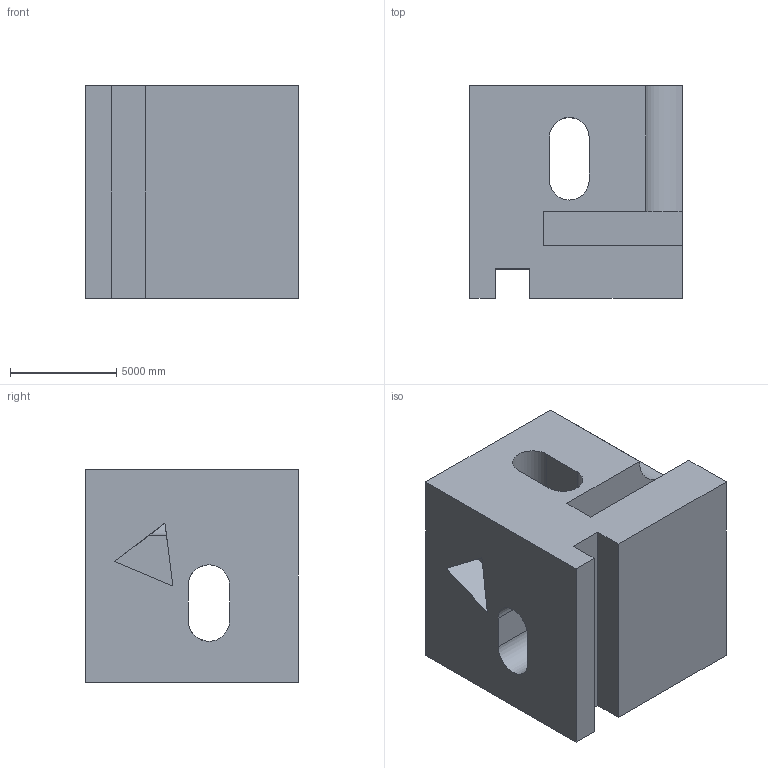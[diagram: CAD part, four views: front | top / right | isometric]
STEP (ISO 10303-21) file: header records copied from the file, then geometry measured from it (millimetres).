
FILE_DESCRIPTION (( 'STEP AP203' ), '1' );
FILE_NAME ('1640.STEP', '2022-08-19T11:16:26', ( 'user' ), ( '' ), 'SwSTEP 2.0', 'SolidWorks 2021', '' );
FILE_SCHEMA (( 'CONFIG_CONTROL_DESIGN' ));
Length unit declared in the file: centimetre
Products named in the file (1): 1640
Bounding box: 10000 x 10000 x 10000 mm (x, y, z)
Volume: 783740627460.4 mm3; surface area: 852641754.9 mm2
Topology: 1 solids, 1 shells, 32 faces, 93 edges, 62 vertices
Faces by surface type: plane 24, cylinder 8
Entity records: 1468 total; most frequent: CARTESIAN_POINT 526, ORIENTED_EDGE 186, DIRECTION 169, EDGE_CURVE 93, LINE 71, VECTOR 71, VERTEX_POINT 62, AXIS2_PLACEMENT_3D 49
